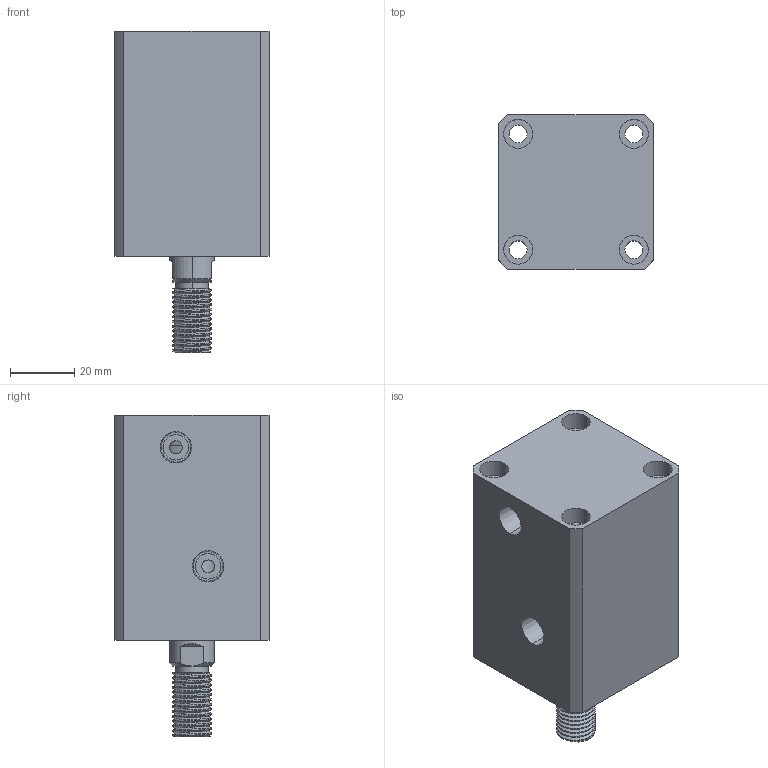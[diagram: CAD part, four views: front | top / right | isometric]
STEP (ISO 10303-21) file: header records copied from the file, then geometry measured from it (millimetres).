
FILE_DESCRIPTION (( 'STEP AP214' ), '1' );
FILE_NAME ('chtb-sd25x25w_asm.STEP', '2018-05-22T09:24:07', ( 'Windows' ), ( 'Microsoft' ), 'SwSTEP 2.0', 'SolidWorks 2015', '' );
FILE_SCHEMA (( 'AUTOMOTIVE_DESIGN' ));
Length unit declared in the file: millimetre
Products named in the file (4): chtb-sd25x25w_asm; CHTB-SD25X25WHSG; CHTB-SD25X25NBT; CHTB-25QG
Assembly tree (3 placements, depth 2):
  chtb-sd25x25w_asm
    CHTB-25QG
    CHTB-SD25X25NBT
    CHTB-SD25X25WHSG
Bounding box: 48 x 48 x 100 mm (x, y, z)
Volume: 144397.8 mm3; surface area: 39788.8 mm2
Topology: 3 solids, 3 shells, 178 faces, 474 edges, 323 vertices
Faces by surface type: cylinder 113, plane 39, cone 14, bspline 12
Entity records: 10610 total; most frequent: CARTESIAN_POINT 6273, ORIENTED_EDGE 940, DIRECTION 778, EDGE_CURVE 470, VERTEX_POINT 323, AXIS2_PLACEMENT_3D 317, EDGE_LOOP 217, FACE_OUTER_BOUND 178
